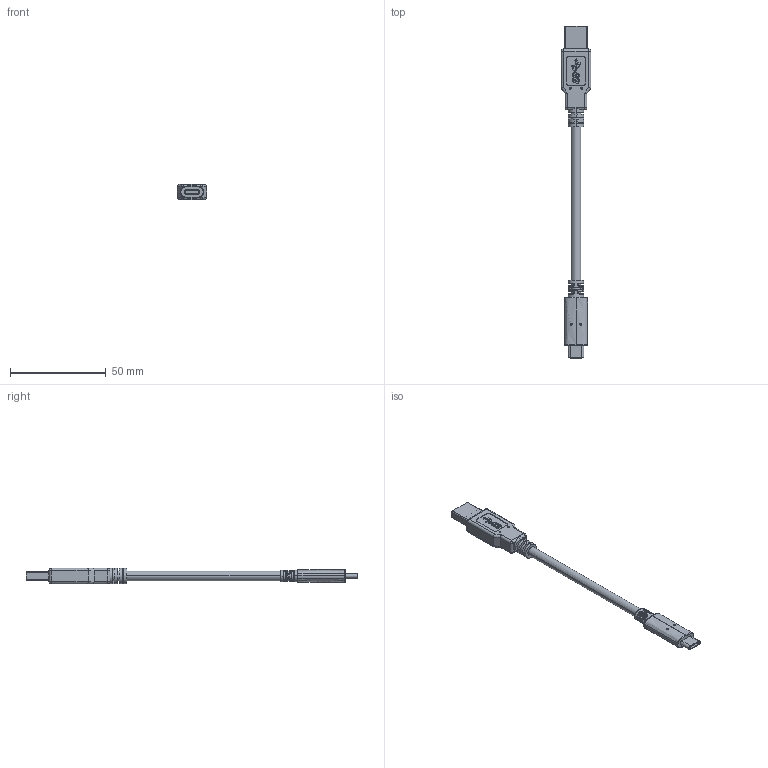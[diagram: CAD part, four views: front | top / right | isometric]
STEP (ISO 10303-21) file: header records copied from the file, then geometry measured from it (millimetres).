
FILE_DESCRIPTION (( 'STEP AP203' ), '1' );
FILE_NAME ('RR-ASCS-XXGRC_202302.STEP', '2023-02-17T05:27:00', ( '' ), ( '' ), 'SwSTEP 2.0', 'SolidWorks 2019', '' );
FILE_SCHEMA (( 'CONFIG_CONTROL_DESIGN' ));
Length unit declared in the file: millimetre
Products named in the file (1): RR-ASCS-XXGRC_202302
Bounding box: 15.5 x 173.25 x 8 mm (x, y, z)
Volume: 7860 mm3; surface area: 5228.1 mm2
Topology: 1 solids, 1 shells, 324 faces, 818 edges, 508 vertices
Faces by surface type: plane 114, cylinder 104, bspline 85, torus 9, sphere 8, cone 4
Entity records: 14666 total; most frequent: CARTESIAN_POINT 7472, ORIENTED_EDGE 1620, DIRECTION 1259, EDGE_CURVE 810, VERTEX_POINT 508, AXIS2_PLACEMENT_3D 437, LINE 385, VECTOR 385
